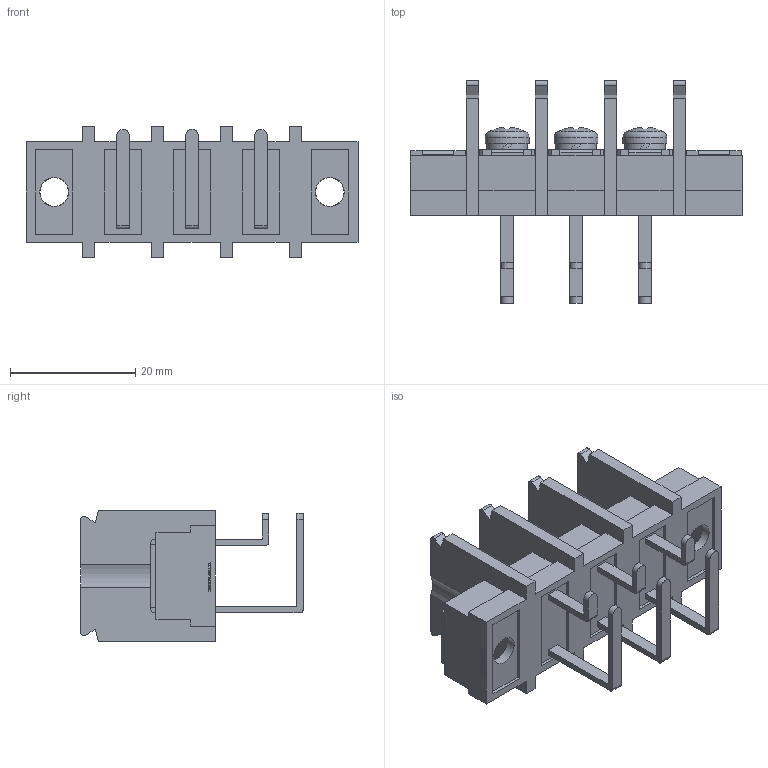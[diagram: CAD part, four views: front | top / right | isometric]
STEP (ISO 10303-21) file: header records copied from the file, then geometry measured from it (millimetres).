
FILE_DESCRIPTION(/* description */ ('Alibre Inc.'),/* implementation_level */ '2;1');
FILE_NAME(/* name */ 'export0',/* time_stamp */ '2015-12-02T12:57:51+09:00',/* author */ (''),/* organization */ (''),/* preprocessor_version */ 'ST-DEVELOPER v14',/* originating_system */ 'Alibre',/* authorisation */ '');
FILE_SCHEMA (('CONFIG_CONTROL_DESIGN'));
Length unit declared in the file: centimetre
Products named in the file (1): ID_1
Bounding box: 53 x 35.5 x 21 mm (x, y, z)
Volume: 8396.7 mm3; surface area: 9615.5 mm2
Topology: 1 solids, 17 shells, 795 faces, 2164 edges, 1436 vertices
Faces by surface type: plane 616, bspline 104, cylinder 54, cone 15, torus 3, sphere 3
Full cylindrical faces by diameter (mm): 4 x3, 4.55 x2, 4.6 x2, 6.5 x3, 7 x3
Entity records: 24009 total; most frequent: CARTESIAN_POINT 5319, ORIENTED_EDGE 4292, DIRECTION 2785, EDGE_CURVE 2146, VECTOR 1679, LINE 1679, VERTEX_POINT 1434, EDGE_LOOP 878
